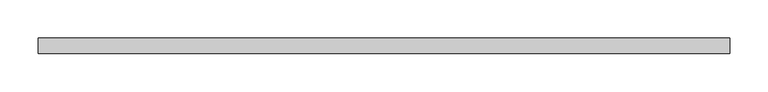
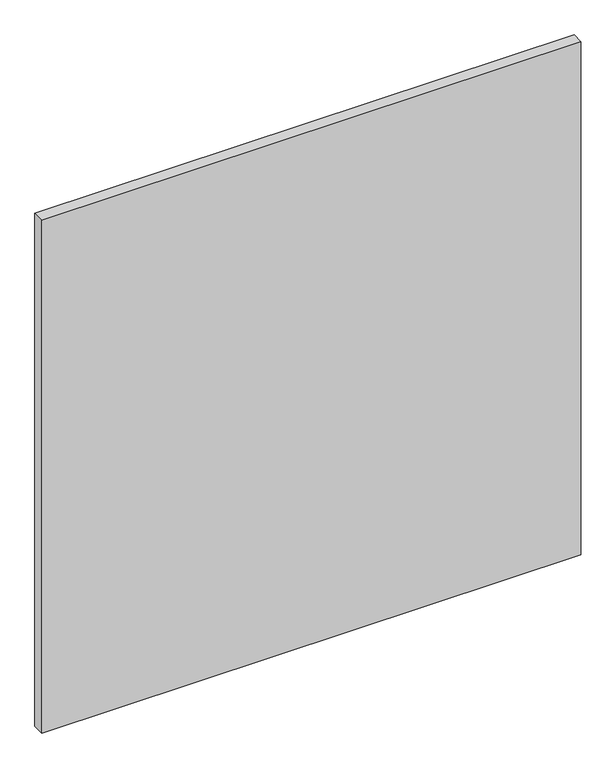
"""IFC4 building model written with IfcOpenShell, lengths in millimetres: proxy geometry, GM_Панель фасадная : Тип 1."""

from ifc_helpers import new_model, si_unit, origin, origin_with_axes, place, context, project, spatial, polyline, outline, extrude, source, transform, mapped, element, save


def generic_models_2374763e(model_context):
    return source(origin(), model_context, "Body", "SweptSolid", [
        extrude(outline(polyline([(-775.0, 125.0), (125.0, 125.0), (125.0, 105.0), (-775.0, 105.0), (-775.0, 125.0)])), origin_with_axes(), (0.0, 0.0, 1.0), 905.0),
    ])


if __name__ == "__main__":
    model = new_model("IFC4")
    model_context = context("Model", 3, world=origin())
    ifc_project = project(units=[si_unit("LENGTHUNIT", "METRE", prefix="MILLI")], contexts=[model_context])
    site = spatial("IfcSite", under=ifc_project)
    building = spatial("IfcBuilding", under=site)
    placement = place(None, origin())
    generic_models_shape = generic_models_2374763e(model_context)
    element("IfcBuildingElementProxy", 1, Name="GM_Панель фасадная : Тип 1", ObjectType="GM_Панель фасадная : Тип 1", at=placement, inside=building, context=model_context, shape_type="MappedRepresentation", body=[
        mapped(generic_models_shape, transform((0.0, 0.0, 0.0), x_axis=(1.0, 0.0, 0.0), y_axis=(0.0, 1.0, 0.0), z_axis=(0.0, 0.0, 1.0))),
    ])
    save(model, "model.ifc")
